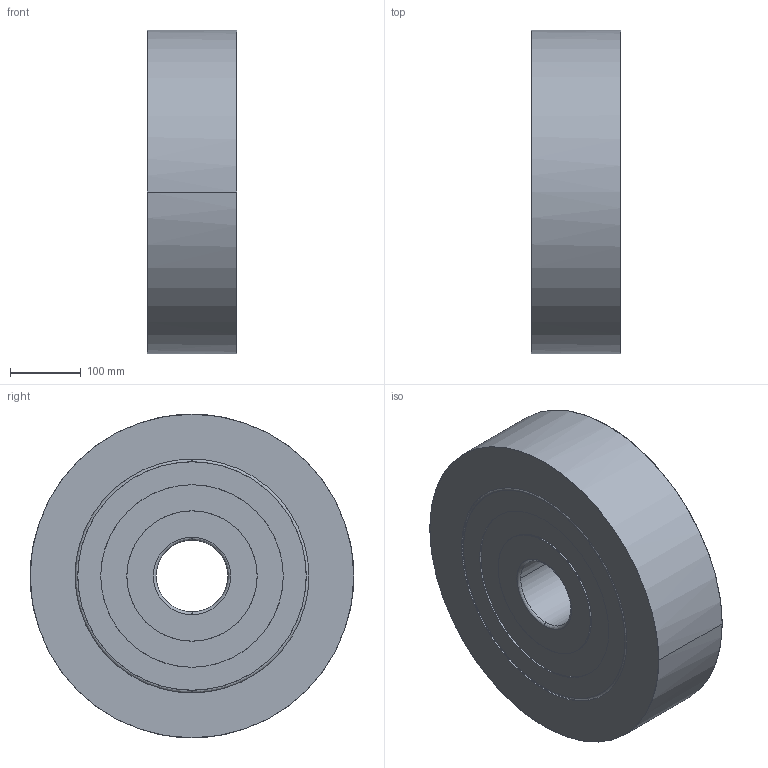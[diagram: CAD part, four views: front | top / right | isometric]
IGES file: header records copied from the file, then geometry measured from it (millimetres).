
Global section: native system: Kubotek KeyCreator; preprocessor: KCM Version 1.1.1442.0; author: KeyCreator User; organization: Self; date: 20170714.085758; units: inch
Bounding box: 127 x 457.2 x 457.2 mm (x, y, z)
Surface area: 553630.9 mm2 (no closed solid volume)
Topology: 0 solids, 0 shells, 32 faces, 208 edges, 208 vertices
Faces by surface type: bspline 32
